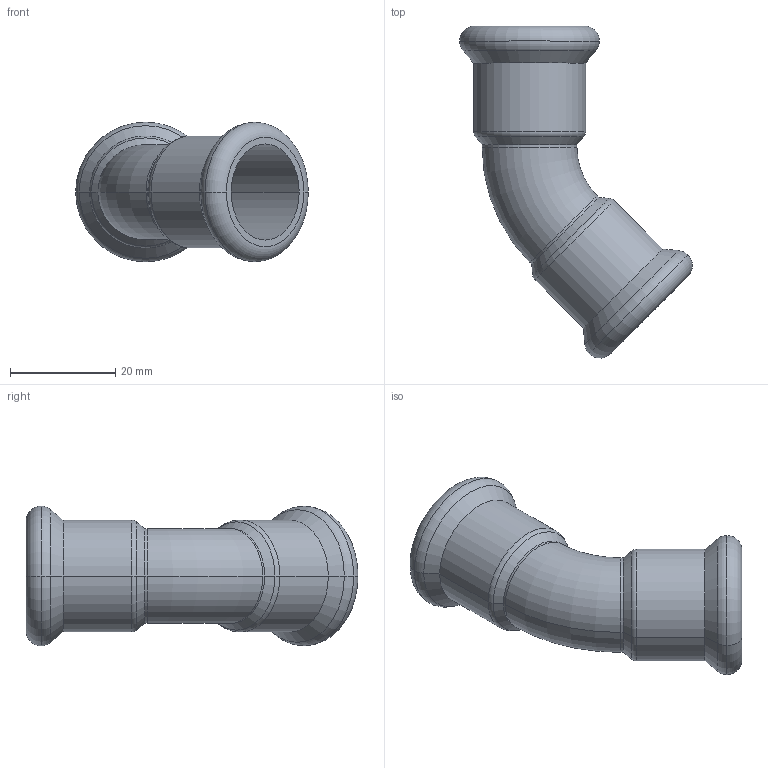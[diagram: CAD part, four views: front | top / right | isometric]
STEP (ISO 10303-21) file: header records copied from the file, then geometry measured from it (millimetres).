
FILE_DESCRIPTION(('OneSpaceDesigner STEP Export'),'2;1');
FILE_NAME('R2713 18x18.stp','2010-06-09T15:51:48',(''),(''),'OneSpace Designer STEP processor for AP214 (Solid Model)','OneSpace Modeling 15.00A 14-Mar-2007 (C) CoCreate Software GmbH','');
FILE_SCHEMA(('AUTOMOTIVE_DESIGN { 1 0 10303 214 1 1 1 1 }'));
Length unit declared in the file: millimetre
Products named in the file (2): R2713_18x18
Assembly tree (1 placements, depth 2):
  R2713_18x18
    R2713_18x18
Bounding box: 44.13 x 62.98 x 26.5 mm (x, y, z)
Volume: 7299.6 mm3; surface area: 9135.1 mm2
Topology: 1 solids, 1 shells, 122 faces, 301 edges, 191 vertices
Faces by surface type: plane 60, cylinder 38, torus 16, cone 8
Entity records: 3264 total; most frequent: ORIENTED_EDGE 602, CARTESIAN_POINT 531, DIRECTION 502, EDGE_CURVE 301, VERTEX_POINT 191, VECTOR 178, LINE 178, AXIS2_PLACEMENT_3D 162
